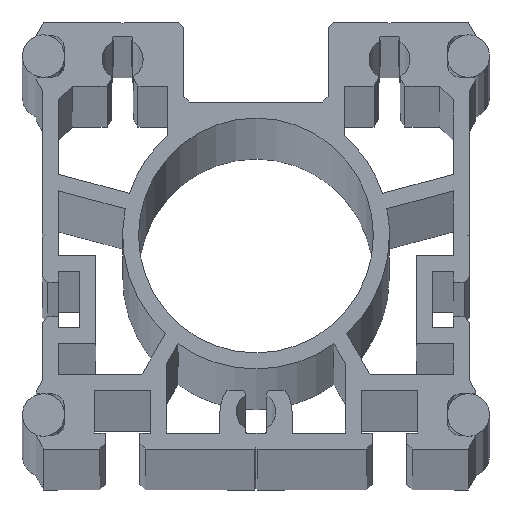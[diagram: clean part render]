
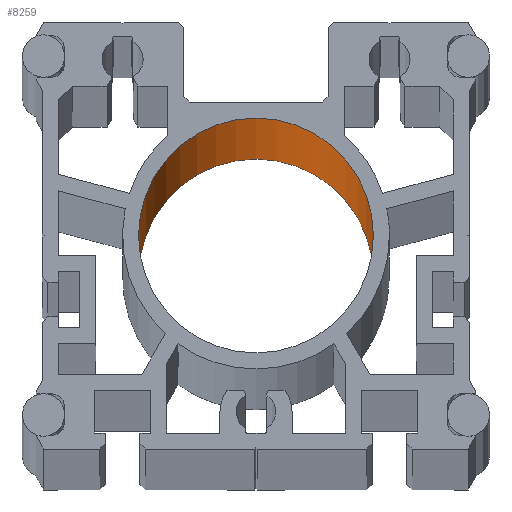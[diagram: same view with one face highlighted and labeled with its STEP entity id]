
A CAD part, top view. The second image highlights one B-rep face of the part: STEP entity #8259.
In plain terms, the highlighted cylindrical face has radius 22 mm (diameter 44 mm), a partial arc.
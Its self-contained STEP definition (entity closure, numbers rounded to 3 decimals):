
#1077 = CARTESIAN_POINT ( 'NONE',  ( 22., 40., -2199. ) ) ;
#1078 = CARTESIAN_POINT ( 'NONE',  ( -22., 40., -2199. ) ) ;
#1251 = DIRECTION ( 'NONE',  ( 0., 0., 1. ) ) ;
#1252 = VECTOR ( 'NONE', #1251, 1000. ) ;
#1253 = CARTESIAN_POINT ( 'NONE',  ( 22., 40., -2199. ) ) ;
#1254 = LINE ( 'NONE', #1253, #1252 ) ;
#1255 = CARTESIAN_POINT ( 'NONE',  ( 22., 40., 2199. ) ) ;
#1295 = CARTESIAN_POINT ( 'NONE',  ( -22., 40., 2199. ) ) ;
#1296 = DIRECTION ( 'NONE',  ( 0., 0., 1. ) ) ;
#1297 = VECTOR ( 'NONE', #1296, 1000. ) ;
#1298 = CARTESIAN_POINT ( 'NONE',  ( -22., 40., -2199. ) ) ;
#1299 = LINE ( 'NONE', #1298, #1297 ) ;
#4199 = DIRECTION ( 'NONE',  ( 1., 0., 0. ) ) ;
#4200 = DIRECTION ( 'NONE',  ( 0., 0., 1. ) ) ;
#4201 = CARTESIAN_POINT ( 'NONE',  ( 0., 40., -2199. ) ) ;
#4202 = AXIS2_PLACEMENT_3D ( 'NONE', #4201, #4200, #4199 ) ;
#4203 = CIRCLE ( 'NONE', #4202, 22. ) ;
#4774 = DIRECTION ( 'NONE',  ( 1., 0., 0. ) ) ;
#4775 = DIRECTION ( 'NONE',  ( 0., 0., 1. ) ) ;
#4776 = CARTESIAN_POINT ( 'NONE',  ( 0., 40., -2199. ) ) ;
#4777 = AXIS2_PLACEMENT_3D ( 'NONE', #4776, #4775, #4774 ) ;
#4779 = CYLINDRICAL_SURFACE ( 'NONE', #4777, 22. ) ;
#4780 = FACE_OUTER_BOUND ( 'NONE', #8260, .T. ) ;
#4781 = DIRECTION ( 'NONE',  ( 1., 0., 0. ) ) ;
#4782 = DIRECTION ( 'NONE',  ( 0., 0., 1. ) ) ;
#4783 = CARTESIAN_POINT ( 'NONE',  ( 0., 40., 2199. ) ) ;
#4784 = AXIS2_PLACEMENT_3D ( 'NONE', #4783, #4782, #4781 ) ;
#4785 = CIRCLE ( 'NONE', #4784, 22. ) ;
#5957 = VERTEX_POINT ( 'NONE', #1078 ) ;
#5958 = VERTEX_POINT ( 'NONE', #1077 ) ;
#5976 = EDGE_CURVE ( 'NONE', #5957, #5977, #1299, .T. ) ;
#5977 = VERTEX_POINT ( 'NONE', #1295 ) ;
#5980 = VERTEX_POINT ( 'NONE', #1255 ) ;
#5982 = EDGE_CURVE ( 'NONE', #5958, #5980, #1254, .T. ) ;
#7683 = EDGE_CURVE ( 'NONE', #5958, #5957, #4203, .T. ) ;
#8257 = EDGE_CURVE ( 'NONE', #5980, #5977, #4785, .T. ) ;
#8259 = ADVANCED_FACE ( 'NONE', ( #4780 ), #4779, .F. ) ;
#8260 = EDGE_LOOP ( 'NONE', ( #8261, #8262, #8263, #8264 ) ) ;
#8261 = ORIENTED_EDGE ( 'NONE', *, *, #5976, .F. ) ;
#8262 = ORIENTED_EDGE ( 'NONE', *, *, #7683, .F. ) ;
#8263 = ORIENTED_EDGE ( 'NONE', *, *, #5982, .T. ) ;
#8264 = ORIENTED_EDGE ( 'NONE', *, *, #8257, .T. ) ;
